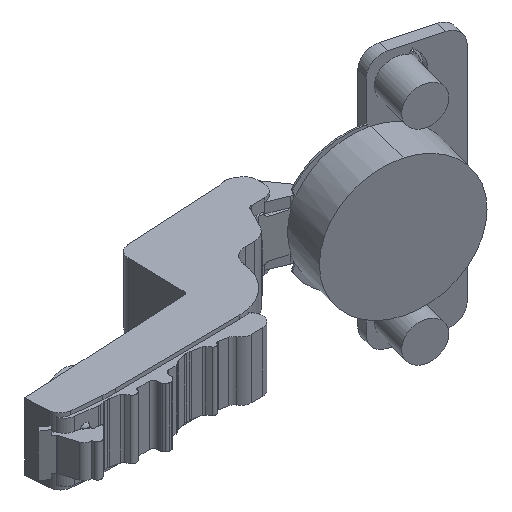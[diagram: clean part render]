
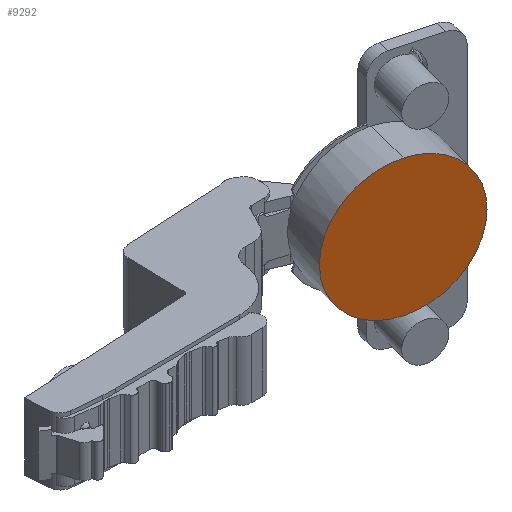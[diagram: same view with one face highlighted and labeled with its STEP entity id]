
A CAD part, isometric view. The second image highlights one B-rep face of the part: STEP entity #9292.
In plain terms, the highlighted planar face has unit normal (-0.261, -0.965, 0).
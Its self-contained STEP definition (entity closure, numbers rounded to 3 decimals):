
#572 = EDGE_LOOP ( 'NONE', ( #4722, #7176 ) ) ;
#1004 = CARTESIAN_POINT ( 'NONE',  ( 5.347, -19.961, -7.7 ) ) ;
#1141 = AXIS2_PLACEMENT_3D ( 'NONE', #1004, #9016, #10298 ) ;
#2394 = AXIS2_PLACEMENT_3D ( 'NONE', #8571, #3515, #6344 ) ;
#3036 = PLANE ( 'NONE',  #1141 ) ;
#3515 = DIRECTION ( 'NONE',  ( -0.261, -0.965, 0. ) ) ;
#4217 = VERTEX_POINT ( 'NONE', #4545 ) ;
#4545 = CARTESIAN_POINT ( 'NONE',  ( -5.239, -17.099, -17.4 ) ) ;
#4722 = ORIENTED_EDGE ( 'NONE', *, *, #10903, .T. ) ;
#4938 = FACE_OUTER_BOUND ( 'NONE', #572, .T. ) ;
#5874 = VERTEX_POINT ( 'NONE', #9553 ) ;
#6344 = DIRECTION ( 'NONE',  ( 0.965, -0.261, 0. ) ) ;
#6899 = DIRECTION ( 'NONE',  ( 0.965, -0.261, 0. ) ) ;
#7176 = ORIENTED_EDGE ( 'NONE', *, *, #8975, .T. ) ;
#8430 = CIRCLE ( 'NONE', #2394, 17.4 ) ;
#8483 = AXIS2_PLACEMENT_3D ( 'NONE', #13112, #11950, #6899 ) ;
#8571 = CARTESIAN_POINT ( 'NONE',  ( -5.239, -17.099, 0. ) ) ;
#8975 = EDGE_CURVE ( 'NONE', #4217, #5874, #8430, .T. ) ;
#9016 = DIRECTION ( 'NONE',  ( 0.261, 0.965, 0. ) ) ;
#9292 = ADVANCED_FACE ( 'NONE', ( #4938 ), #3036, .F. ) ;
#9553 = CARTESIAN_POINT ( 'NONE',  ( -5.239, -17.099, 17.4 ) ) ;
#10298 = DIRECTION ( 'NONE',  ( 0., 0., 1. ) ) ;
#10903 = EDGE_CURVE ( 'NONE', #5874, #4217, #12093, .T. ) ;
#11950 = DIRECTION ( 'NONE',  ( -0.261, -0.965, 0. ) ) ;
#12093 = CIRCLE ( 'NONE', #8483, 17.4 ) ;
#13112 = CARTESIAN_POINT ( 'NONE',  ( -5.239, -17.099, 0. ) ) ;
